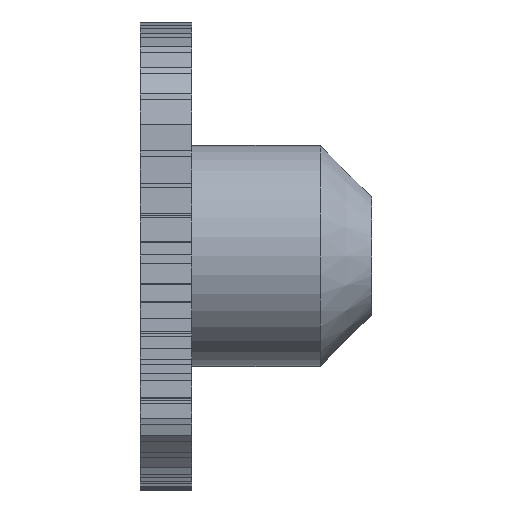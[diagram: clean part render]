
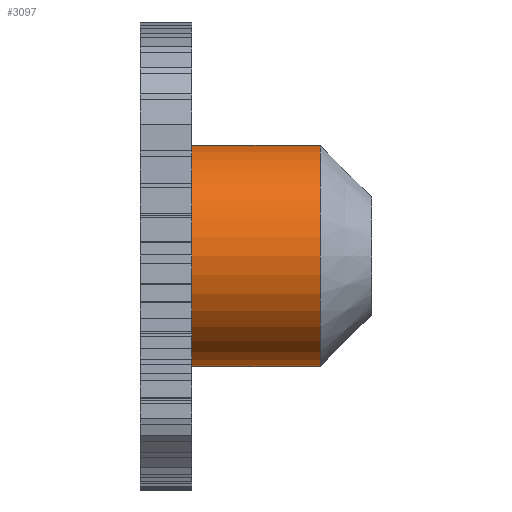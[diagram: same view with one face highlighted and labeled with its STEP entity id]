
A CAD part, left-side view. The second image highlights one B-rep face of the part: STEP entity #3097.
In plain terms, the highlighted cylindrical face has radius 5.461 mm (diameter 10.922 mm), a full revolution.
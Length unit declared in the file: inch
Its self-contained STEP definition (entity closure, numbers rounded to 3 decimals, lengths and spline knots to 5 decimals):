
#172=CYLINDRICAL_SURFACE('',#3274,0.215);
#177=FACE_OUTER_BOUND('',#335,.T.);
#335=EDGE_LOOP('',(#2184,#2185,#2186,#2187));
#494=LINE('',#4233,#948);
#948=VECTOR('',#3454,0.215);
#1403=CIRCLE('',#3273,0.215);
#1404=CIRCLE('',#3275,0.215);
#1409=VERTEX_POINT('',#4228);
#1410=VERTEX_POINT('',#4232);
#1718=EDGE_CURVE('',#1409,#1409,#1403,.T.);
#1719=EDGE_CURVE('',#1409,#1410,#494,.T.);
#1720=EDGE_CURVE('',#1410,#1410,#1404,.T.);
#2184=ORIENTED_EDGE('',*,*,#1718,.F.);
#2185=ORIENTED_EDGE('',*,*,#1719,.T.);
#2186=ORIENTED_EDGE('',*,*,#1720,.F.);
#2187=ORIENTED_EDGE('',*,*,#1719,.F.);
#3097=ADVANCED_FACE('',(#177),#172,.T.);
#3273=AXIS2_PLACEMENT_3D('',#4230,#3450,#3451);
#3274=AXIS2_PLACEMENT_3D('',#4231,#3452,#3453);
#3275=AXIS2_PLACEMENT_3D('',#4234,#3455,#3456);
#3450=DIRECTION('center_axis',(0.,-1.,0.));
#3451=DIRECTION('ref_axis',(-1.,0.,0.));
#3452=DIRECTION('center_axis',(0.,-1.,0.));
#3453=DIRECTION('ref_axis',(-1.,0.,0.));
#3454=DIRECTION('',(0.,1.,0.));
#3455=DIRECTION('center_axis',(0.,1.,0.));
#3456=DIRECTION('ref_axis',(-1.,0.,0.));
#4228=CARTESIAN_POINT('',(-0.91909,1.54257,0.34431));
#4230=CARTESIAN_POINT('Origin',(-1.13409,1.54257,0.34431));
#4231=CARTESIAN_POINT('Origin',(-1.13409,1.79257,0.34431));
#4232=CARTESIAN_POINT('',(-0.91909,1.79257,0.34431));
#4233=CARTESIAN_POINT('',(-0.91909,1.79257,0.34431));
#4234=CARTESIAN_POINT('Origin',(-1.13409,1.79257,0.34431));
